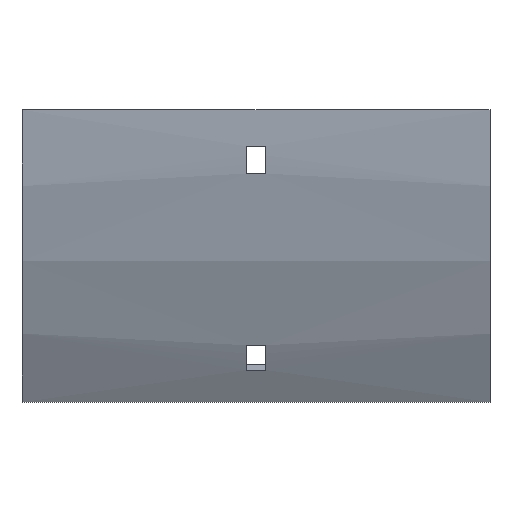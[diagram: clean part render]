
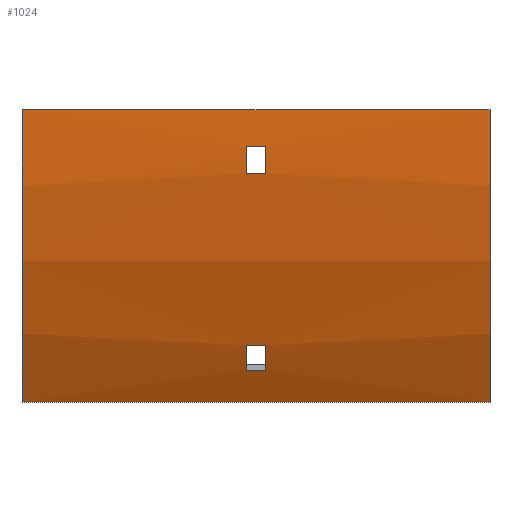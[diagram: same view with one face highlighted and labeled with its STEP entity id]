
A CAD part, front view. The second image highlights one B-rep face of the part: STEP entity #1024.
In plain terms, the highlighted cylindrical face has radius 192.5 mm (diameter 385 mm), a partial arc.
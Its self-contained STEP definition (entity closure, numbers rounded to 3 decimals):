
#4 = CARTESIAN_POINT ( 'NONE',  ( -3.25, -76.215, -77.489 ) ) ;
#6 = LINE ( 'NONE', #1183, #785 ) ;
#28 = EDGE_CURVE ( 'NONE', #1623, #884, #75, .T. ) ;
#58 = VERTEX_POINT ( 'NONE', #968 ) ;
#75 = LINE ( 'NONE', #1609, #383 ) ;
#76 = CARTESIAN_POINT ( 'NONE',  ( 77., -92.5, 0. ) ) ;
#81 = VERTEX_POINT ( 'NONE', #371 ) ;
#86 = DIRECTION ( 'NONE',  ( 1., 0., 0. ) ) ;
#101 = DIRECTION ( 'NONE',  ( 0., 0., -1. ) ) ;
#113 = DIRECTION ( 'NONE',  ( 0., 0., -1. ) ) ;
#119 = CARTESIAN_POINT ( 'NONE',  ( 3.25, 100., 0. ) ) ;
#154 = LINE ( 'NONE', #917, #384 ) ;
#165 = DIRECTION ( 'NONE',  ( -1., 0., 0. ) ) ;
#170 = ORIENTED_EDGE ( 'NONE', *, *, #776, .F. ) ;
#172 = DIRECTION ( 'NONE',  ( 0., 0., 1. ) ) ;
#193 = EDGE_CURVE ( 'NONE', #828, #820, #1359, .T. ) ;
#198 = VECTOR ( 'NONE', #1216, 1000. ) ;
#212 = EDGE_CURVE ( 'NONE', #828, #1385, #154, .T. ) ;
#236 = LINE ( 'NONE', #1672, #1663 ) ;
#247 = DIRECTION ( 'NONE',  ( 0., 0., 1. ) ) ;
#256 = DIRECTION ( 'NONE',  ( 1., 0., 0. ) ) ;
#272 = ORIENTED_EDGE ( 'NONE', *, *, #1645, .F. ) ;
#281 = ORIENTED_EDGE ( 'NONE', *, *, #1124, .T. ) ;
#284 = VERTEX_POINT ( 'NONE', #4 ) ;
#292 = LINE ( 'NONE', #963, #198 ) ;
#299 = AXIS2_PLACEMENT_3D ( 'NONE', #1258, #1123, #1630 ) ;
#311 = EDGE_LOOP ( 'NONE', ( #421, #654, #608, #563 ) ) ;
#371 = CARTESIAN_POINT ( 'NONE',  ( 3.25, -91.351, -21. ) ) ;
#373 = EDGE_CURVE ( 'NONE', #688, #997, #699, .T. ) ;
#383 = VECTOR ( 'NONE', #1122, 1000. ) ;
#384 = VECTOR ( 'NONE', #1449, 1000. ) ;
#399 = CARTESIAN_POINT ( 'NONE',  ( -3.25, -72.386, -85.671 ) ) ;
#421 = ORIENTED_EDGE ( 'NONE', *, *, #711, .T. ) ;
#435 = AXIS2_PLACEMENT_3D ( 'NONE', #119, #643, #247 ) ;
#527 = DIRECTION ( 'NONE',  ( -1., 0., 0. ) ) ;
#563 = ORIENTED_EDGE ( 'NONE', *, *, #212, .T. ) ;
#564 = CARTESIAN_POINT ( 'NONE',  ( -3.25, -92.126, -12. ) ) ;
#575 = EDGE_CURVE ( 'NONE', #820, #58, #292, .T. ) ;
#582 = DIRECTION ( 'NONE',  ( 1., 0., 0. ) ) ;
#593 = LINE ( 'NONE', #1371, #1378 ) ;
#598 = CARTESIAN_POINT ( 'NONE',  ( -77., 100., 0. ) ) ;
#608 = ORIENTED_EDGE ( 'NONE', *, *, #193, .F. ) ;
#617 = CARTESIAN_POINT ( 'NONE',  ( 3.25, -92.126, -12. ) ) ;
#630 = CIRCLE ( 'NONE', #823, 192.5 ) ;
#643 = DIRECTION ( 'NONE',  ( -1., 0., 0. ) ) ;
#654 = ORIENTED_EDGE ( 'NONE', *, *, #575, .F. ) ;
#688 = VERTEX_POINT ( 'NONE', #1272 ) ;
#699 = CIRCLE ( 'NONE', #752, 192.5 ) ;
#700 = EDGE_LOOP ( 'NONE', ( #170, #272, #1448, #1151 ) ) ;
#711 = EDGE_CURVE ( 'NONE', #1385, #58, #630, .T. ) ;
#752 = AXIS2_PLACEMENT_3D ( 'NONE', #911, #1020, #1540 ) ;
#758 = CARTESIAN_POINT ( 'NONE',  ( 77., -66.71, -96.25 ) ) ;
#776 = EDGE_CURVE ( 'NONE', #284, #1623, #1643, .T. ) ;
#783 = VERTEX_POINT ( 'NONE', #617 ) ;
#785 = VECTOR ( 'NONE', #527, 1000. ) ;
#820 = VERTEX_POINT ( 'NONE', #758 ) ;
#823 = AXIS2_PLACEMENT_3D ( 'NONE', #598, #86, #101 ) ;
#828 = VERTEX_POINT ( 'NONE', #76 ) ;
#884 = VERTEX_POINT ( 'NONE', #910 ) ;
#890 = EDGE_CURVE ( 'NONE', #783, #81, #1175, .T. ) ;
#910 = CARTESIAN_POINT ( 'NONE',  ( 3.25, -72.386, -85.671 ) ) ;
#911 = CARTESIAN_POINT ( 'NONE',  ( -3.25, 100., 0. ) ) ;
#917 = CARTESIAN_POINT ( 'NONE',  ( 77., -92.5, 0. ) ) ;
#929 = DIRECTION ( 'NONE',  ( 0., 0., -1. ) ) ;
#938 = DIRECTION ( 'NONE',  ( 1., 0., 0. ) ) ;
#952 = EDGE_CURVE ( 'NONE', #884, #1209, #1447, .T. ) ;
#956 = ORIENTED_EDGE ( 'NONE', *, *, #373, .T. ) ;
#963 = CARTESIAN_POINT ( 'NONE',  ( 77., -66.71, -96.25 ) ) ;
#968 = CARTESIAN_POINT ( 'NONE',  ( -77., -66.71, -96.25 ) ) ;
#997 = VERTEX_POINT ( 'NONE', #564 ) ;
#1020 = DIRECTION ( 'NONE',  ( -1., 0., 0. ) ) ;
#1024 = ADVANCED_FACE ( 'NONE', ( #1494, #1055, #1221 ), #1577, .T. ) ;
#1055 = FACE_BOUND ( 'NONE', #1492, .T. ) ;
#1111 = AXIS2_PLACEMENT_3D ( 'NONE', #1178, #938, #929 ) ;
#1122 = DIRECTION ( 'NONE',  ( 1., 0., 0. ) ) ;
#1123 = DIRECTION ( 'NONE',  ( 1., 0., 0. ) ) ;
#1124 = EDGE_CURVE ( 'NONE', #997, #783, #593, .T. ) ;
#1151 = ORIENTED_EDGE ( 'NONE', *, *, #28, .F. ) ;
#1175 = CIRCLE ( 'NONE', #1308, 192.5 ) ;
#1178 = CARTESIAN_POINT ( 'NONE',  ( 77., 100., 0. ) ) ;
#1183 = CARTESIAN_POINT ( 'NONE',  ( 77., -76.215, -77.489 ) ) ;
#1197 = CARTESIAN_POINT ( 'NONE',  ( 3.25, -76.215, -77.489 ) ) ;
#1209 = VERTEX_POINT ( 'NONE', #1197 ) ;
#1216 = DIRECTION ( 'NONE',  ( -1., 0., 0. ) ) ;
#1221 = FACE_BOUND ( 'NONE', #700, .T. ) ;
#1258 = CARTESIAN_POINT ( 'NONE',  ( -3.25, 100., 0. ) ) ;
#1272 = CARTESIAN_POINT ( 'NONE',  ( -3.25, -91.351, -21. ) ) ;
#1273 = DIRECTION ( 'NONE',  ( -1., 0., 0. ) ) ;
#1274 = ORIENTED_EDGE ( 'NONE', *, *, #890, .T. ) ;
#1283 = CARTESIAN_POINT ( 'NONE',  ( 3.25, 100., 0. ) ) ;
#1308 = AXIS2_PLACEMENT_3D ( 'NONE', #1283, #256, #113 ) ;
#1359 = CIRCLE ( 'NONE', #1111, 192.5 ) ;
#1371 = CARTESIAN_POINT ( 'NONE',  ( 77., -92.126, -12. ) ) ;
#1378 = VECTOR ( 'NONE', #582, 1000. ) ;
#1385 = VERTEX_POINT ( 'NONE', #1486 ) ;
#1401 = AXIS2_PLACEMENT_3D ( 'NONE', #1484, #165, #172 ) ;
#1438 = ORIENTED_EDGE ( 'NONE', *, *, #1523, .T. ) ;
#1447 = CIRCLE ( 'NONE', #435, 192.5 ) ;
#1448 = ORIENTED_EDGE ( 'NONE', *, *, #952, .F. ) ;
#1449 = DIRECTION ( 'NONE',  ( -1., 0., 0. ) ) ;
#1484 = CARTESIAN_POINT ( 'NONE',  ( 77., 100., 0. ) ) ;
#1486 = CARTESIAN_POINT ( 'NONE',  ( -77., -92.5, 0. ) ) ;
#1492 = EDGE_LOOP ( 'NONE', ( #1438, #956, #281, #1274 ) ) ;
#1494 = FACE_OUTER_BOUND ( 'NONE', #311, .T. ) ;
#1523 = EDGE_CURVE ( 'NONE', #81, #688, #236, .T. ) ;
#1540 = DIRECTION ( 'NONE',  ( 0., 0., 1. ) ) ;
#1577 = CYLINDRICAL_SURFACE ( 'NONE', #1401, 192.5 ) ;
#1609 = CARTESIAN_POINT ( 'NONE',  ( 77., -72.386, -85.671 ) ) ;
#1623 = VERTEX_POINT ( 'NONE', #399 ) ;
#1630 = DIRECTION ( 'NONE',  ( 0., 0., -1. ) ) ;
#1643 = CIRCLE ( 'NONE', #299, 192.5 ) ;
#1645 = EDGE_CURVE ( 'NONE', #1209, #284, #6, .T. ) ;
#1663 = VECTOR ( 'NONE', #1273, 1000. ) ;
#1672 = CARTESIAN_POINT ( 'NONE',  ( 77., -91.351, -21. ) ) ;
